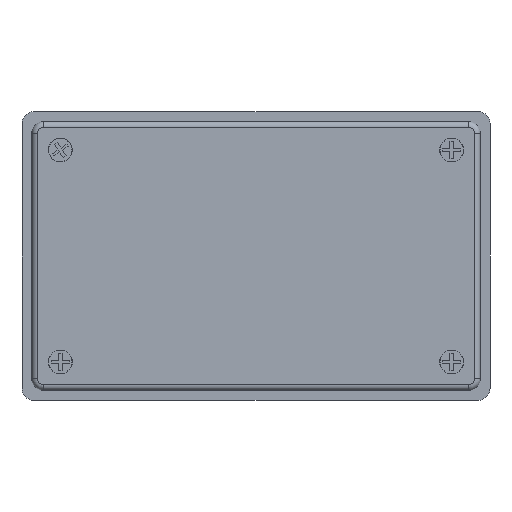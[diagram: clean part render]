
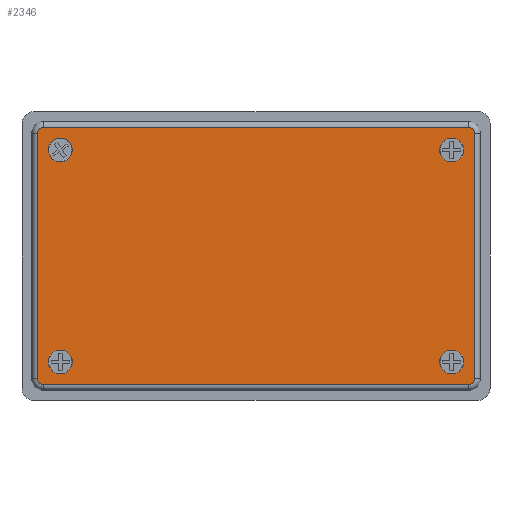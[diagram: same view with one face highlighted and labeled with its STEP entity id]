
A CAD part, front view. The second image highlights one B-rep face of the part: STEP entity #2346.
In plain terms, the highlighted planar face has unit normal (0, -1, 0).
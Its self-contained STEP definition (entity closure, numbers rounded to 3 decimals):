
#60 = DIRECTION ( 'NONE',  ( 0., 1., 0. ) ) ;
#138 = EDGE_CURVE ( 'NONE', #3438, #6290, #7312, .T. ) ;
#174 = AXIS2_PLACEMENT_3D ( 'NONE', #5218, #1301, #5840 ) ;
#193 = CARTESIAN_POINT ( 'NONE',  ( 33.25, 0., -18. ) ) ;
#205 = EDGE_CURVE ( 'NONE', #6600, #1155, #456, .T. ) ;
#212 = FACE_BOUND ( 'NONE', #317, .T. ) ;
#317 = EDGE_LOOP ( 'NONE', ( #4497, #2162 ) ) ;
#440 = AXIS2_PLACEMENT_3D ( 'NONE', #4075, #60, #4681 ) ;
#456 = CIRCLE ( 'NONE', #1502, 2. ) ;
#467 = DIRECTION ( 'NONE',  ( 0., 1., 0. ) ) ;
#475 = CIRCLE ( 'NONE', #963, 2. ) ;
#491 = CARTESIAN_POINT ( 'NONE',  ( -36.1, 0., 20.85 ) ) ;
#499 = CARTESIAN_POINT ( 'NONE',  ( 37.1, 0., 20.85 ) ) ;
#507 = ORIENTED_EDGE ( 'NONE', *, *, #5282, .T. ) ;
#545 = CARTESIAN_POINT ( 'NONE',  ( -36.1, 0., 21.85 ) ) ;
#591 = DIRECTION ( 'NONE',  ( 0., -1., 0. ) ) ;
#645 = PLANE ( 'NONE',  #3297 ) ;
#710 = EDGE_CURVE ( 'NONE', #6521, #2486, #1807, .T. ) ;
#738 = VERTEX_POINT ( 'NONE', #7745 ) ;
#777 = CARTESIAN_POINT ( 'NONE',  ( -33.25, 0., 16. ) ) ;
#858 = DIRECTION ( 'NONE',  ( 0., 0., 1. ) ) ;
#893 = CARTESIAN_POINT ( 'NONE',  ( 36.1, 0., -20.85 ) ) ;
#963 = AXIS2_PLACEMENT_3D ( 'NONE', #7678, #3998, #8285 ) ;
#973 = CARTESIAN_POINT ( 'NONE',  ( 36.1, 0., 20.85 ) ) ;
#992 = AXIS2_PLACEMENT_3D ( 'NONE', #5570, #1691, #6186 ) ;
#1022 = AXIS2_PLACEMENT_3D ( 'NONE', #193, #4801, #858 ) ;
#1155 = VERTEX_POINT ( 'NONE', #1784 ) ;
#1157 = DIRECTION ( 'NONE',  ( 0., 0., 1. ) ) ;
#1301 = DIRECTION ( 'NONE',  ( 0., 1., 0. ) ) ;
#1341 = CARTESIAN_POINT ( 'NONE',  ( 0., 0., 0. ) ) ;
#1410 = EDGE_CURVE ( 'NONE', #4139, #7762, #6127, .T. ) ;
#1421 = EDGE_CURVE ( 'NONE', #3970, #7396, #5546, .T. ) ;
#1434 = DIRECTION ( 'NONE',  ( 0., 0., 1. ) ) ;
#1458 = AXIS2_PLACEMENT_3D ( 'NONE', #3927, #8218, #4544 ) ;
#1502 = AXIS2_PLACEMENT_3D ( 'NONE', #4457, #467, #5061 ) ;
#1570 = DIRECTION ( 'NONE',  ( 0., 0., 1. ) ) ;
#1652 = DIRECTION ( 'NONE',  ( 0., 0., 1. ) ) ;
#1659 = CIRCLE ( 'NONE', #6918, 1. ) ;
#1691 = DIRECTION ( 'NONE',  ( 0., 1., 0. ) ) ;
#1784 = CARTESIAN_POINT ( 'NONE',  ( -33.25, 0., -20. ) ) ;
#1791 = CARTESIAN_POINT ( 'NONE',  ( 33.25, 0., -16. ) ) ;
#1807 = CIRCLE ( 'NONE', #2963, 1. ) ;
#1814 = CARTESIAN_POINT ( 'NONE',  ( -37.1, 0., -20.85 ) ) ;
#1980 = EDGE_CURVE ( 'NONE', #7474, #738, #2863, .T. ) ;
#1987 = FACE_BOUND ( 'NONE', #5942, .T. ) ;
#2013 = DIRECTION ( 'NONE',  ( 0., 0., 1. ) ) ;
#2017 = CARTESIAN_POINT ( 'NONE',  ( -37.1, 0., 20.85 ) ) ;
#2162 = ORIENTED_EDGE ( 'NONE', *, *, #3586, .T. ) ;
#2186 = CIRCLE ( 'NONE', #5169, 1. ) ;
#2195 = AXIS2_PLACEMENT_3D ( 'NONE', #893, #5452, #1570 ) ;
#2293 = DIRECTION ( 'NONE',  ( 0., 0., -1. ) ) ;
#2346 = ADVANCED_FACE ( 'NONE', ( #3792, #2417, #212, #6869, #1987 ), #645, .F. ) ;
#2407 = LINE ( 'NONE', #7680, #5610 ) ;
#2417 = FACE_BOUND ( 'NONE', #6497, .T. ) ;
#2439 = CARTESIAN_POINT ( 'NONE',  ( 0., 0., -21.85 ) ) ;
#2486 = VERTEX_POINT ( 'NONE', #6051 ) ;
#2550 = EDGE_CURVE ( 'NONE', #6540, #4139, #1659, .T. ) ;
#2601 = ORIENTED_EDGE ( 'NONE', *, *, #710, .T. ) ;
#2603 = DIRECTION ( 'NONE',  ( -1., 0., 0. ) ) ;
#2630 = EDGE_CURVE ( 'NONE', #5657, #6540, #2407, .T. ) ;
#2655 = ORIENTED_EDGE ( 'NONE', *, *, #2550, .T. ) ;
#2808 = CARTESIAN_POINT ( 'NONE',  ( -33.25, 0., 20. ) ) ;
#2863 = CIRCLE ( 'NONE', #992, 2. ) ;
#2963 = AXIS2_PLACEMENT_3D ( 'NONE', #4573, #591, #1434 ) ;
#2990 = CARTESIAN_POINT ( 'NONE',  ( -37.1, 0., 0. ) ) ;
#3058 = EDGE_LOOP ( 'NONE', ( #3092, #2601, #6634, #507, #7602, #2655, #4268, #3597 ) ) ;
#3092 = ORIENTED_EDGE ( 'NONE', *, *, #3278, .T. ) ;
#3276 = CARTESIAN_POINT ( 'NONE',  ( 36.1, 0., 21.85 ) ) ;
#3278 = EDGE_CURVE ( 'NONE', #7852, #6521, #3581, .T. ) ;
#3297 = AXIS2_PLACEMENT_3D ( 'NONE', #1341, #5865, #2013 ) ;
#3371 = EDGE_CURVE ( 'NONE', #2486, #7389, #4448, .T. ) ;
#3438 = VERTEX_POINT ( 'NONE', #1791 ) ;
#3581 = LINE ( 'NONE', #2990, #6667 ) ;
#3586 = EDGE_CURVE ( 'NONE', #7396, #3970, #5790, .T. ) ;
#3597 = ORIENTED_EDGE ( 'NONE', *, *, #6173, .T. ) ;
#3636 = EDGE_CURVE ( 'NONE', #1155, #6600, #8292, .T. ) ;
#3792 = FACE_OUTER_BOUND ( 'NONE', #3058, .T. ) ;
#3919 = VECTOR ( 'NONE', #2603, 1000. ) ;
#3927 = CARTESIAN_POINT ( 'NONE',  ( 33.25, 0., -18. ) ) ;
#3966 = ORIENTED_EDGE ( 'NONE', *, *, #4983, .T. ) ;
#3970 = VERTEX_POINT ( 'NONE', #777 ) ;
#3984 = CARTESIAN_POINT ( 'NONE',  ( -33.25, 0., 18. ) ) ;
#3998 = DIRECTION ( 'NONE',  ( 0., 1., 0. ) ) ;
#4075 = CARTESIAN_POINT ( 'NONE',  ( -33.25, 0., -18. ) ) ;
#4139 = VERTEX_POINT ( 'NONE', #3276 ) ;
#4268 = ORIENTED_EDGE ( 'NONE', *, *, #1410, .T. ) ;
#4448 = LINE ( 'NONE', #2439, #5898 ) ;
#4457 = CARTESIAN_POINT ( 'NONE',  ( -33.25, 0., -18. ) ) ;
#4497 = ORIENTED_EDGE ( 'NONE', *, *, #1421, .T. ) ;
#4544 = DIRECTION ( 'NONE',  ( 0., 0., 1. ) ) ;
#4573 = CARTESIAN_POINT ( 'NONE',  ( -36.1, 0., -20.85 ) ) ;
#4593 = CARTESIAN_POINT ( 'NONE',  ( 33.25, 0., -20. ) ) ;
#4599 = DIRECTION ( 'NONE',  ( 0., 0., 1. ) ) ;
#4681 = DIRECTION ( 'NONE',  ( 0., 0., 1. ) ) ;
#4755 = CIRCLE ( 'NONE', #1458, 2. ) ;
#4770 = ORIENTED_EDGE ( 'NONE', *, *, #205, .T. ) ;
#4801 = DIRECTION ( 'NONE',  ( 0., 1., 0. ) ) ;
#4983 = EDGE_CURVE ( 'NONE', #738, #7474, #475, .T. ) ;
#5061 = DIRECTION ( 'NONE',  ( 0., 0., 1. ) ) ;
#5080 = DIRECTION ( 'NONE',  ( 0., -1., 0. ) ) ;
#5169 = AXIS2_PLACEMENT_3D ( 'NONE', #491, #5080, #1157 ) ;
#5218 = CARTESIAN_POINT ( 'NONE',  ( -33.25, 0., 18. ) ) ;
#5282 = EDGE_CURVE ( 'NONE', #7389, #5657, #7023, .T. ) ;
#5452 = DIRECTION ( 'NONE',  ( 0., -1., 0. ) ) ;
#5533 = DIRECTION ( 'NONE',  ( 0., -1., 0. ) ) ;
#5545 = EDGE_CURVE ( 'NONE', #6290, #3438, #4755, .T. ) ;
#5546 = CIRCLE ( 'NONE', #5835, 2. ) ;
#5570 = CARTESIAN_POINT ( 'NONE',  ( 33.25, 0., 18. ) ) ;
#5610 = VECTOR ( 'NONE', #8287, 1000. ) ;
#5633 = DIRECTION ( 'NONE',  ( 1., 0., 0. ) ) ;
#5657 = VERTEX_POINT ( 'NONE', #7642 ) ;
#5790 = CIRCLE ( 'NONE', #174, 2. ) ;
#5835 = AXIS2_PLACEMENT_3D ( 'NONE', #3984, #8267, #4599 ) ;
#5840 = DIRECTION ( 'NONE',  ( 0., 0., 1. ) ) ;
#5865 = DIRECTION ( 'NONE',  ( 0., 1., 0. ) ) ;
#5898 = VECTOR ( 'NONE', #5633, 1000. ) ;
#5942 = EDGE_LOOP ( 'NONE', ( #3966, #7637 ) ) ;
#6023 = ORIENTED_EDGE ( 'NONE', *, *, #138, .T. ) ;
#6048 = ORIENTED_EDGE ( 'NONE', *, *, #5545, .T. ) ;
#6051 = CARTESIAN_POINT ( 'NONE',  ( -36.1, 0., -21.85 ) ) ;
#6127 = LINE ( 'NONE', #7638, #3919 ) ;
#6173 = EDGE_CURVE ( 'NONE', #7762, #7852, #2186, .T. ) ;
#6186 = DIRECTION ( 'NONE',  ( 0., 0., 1. ) ) ;
#6290 = VERTEX_POINT ( 'NONE', #4593 ) ;
#6497 = EDGE_LOOP ( 'NONE', ( #6818, #4770 ) ) ;
#6521 = VERTEX_POINT ( 'NONE', #1814 ) ;
#6540 = VERTEX_POINT ( 'NONE', #499 ) ;
#6542 = CARTESIAN_POINT ( 'NONE',  ( 36.1, 0., -21.85 ) ) ;
#6600 = VERTEX_POINT ( 'NONE', #6983 ) ;
#6625 = CARTESIAN_POINT ( 'NONE',  ( 33.25, 0., 20. ) ) ;
#6634 = ORIENTED_EDGE ( 'NONE', *, *, #3371, .T. ) ;
#6667 = VECTOR ( 'NONE', #2293, 1000. ) ;
#6818 = ORIENTED_EDGE ( 'NONE', *, *, #3636, .T. ) ;
#6869 = FACE_BOUND ( 'NONE', #7955, .T. ) ;
#6918 = AXIS2_PLACEMENT_3D ( 'NONE', #973, #5533, #1652 ) ;
#6983 = CARTESIAN_POINT ( 'NONE',  ( -33.25, 0., -16. ) ) ;
#7023 = CIRCLE ( 'NONE', #2195, 1. ) ;
#7312 = CIRCLE ( 'NONE', #1022, 2. ) ;
#7389 = VERTEX_POINT ( 'NONE', #6542 ) ;
#7396 = VERTEX_POINT ( 'NONE', #2808 ) ;
#7474 = VERTEX_POINT ( 'NONE', #6625 ) ;
#7602 = ORIENTED_EDGE ( 'NONE', *, *, #2630, .T. ) ;
#7637 = ORIENTED_EDGE ( 'NONE', *, *, #1980, .T. ) ;
#7638 = CARTESIAN_POINT ( 'NONE',  ( 0., 0., 21.85 ) ) ;
#7642 = CARTESIAN_POINT ( 'NONE',  ( 37.1, 0., -20.85 ) ) ;
#7678 = CARTESIAN_POINT ( 'NONE',  ( 33.25, 0., 18. ) ) ;
#7680 = CARTESIAN_POINT ( 'NONE',  ( 37.1, 0., 0. ) ) ;
#7745 = CARTESIAN_POINT ( 'NONE',  ( 33.25, 0., 16. ) ) ;
#7762 = VERTEX_POINT ( 'NONE', #545 ) ;
#7852 = VERTEX_POINT ( 'NONE', #2017 ) ;
#7955 = EDGE_LOOP ( 'NONE', ( #6048, #6023 ) ) ;
#8218 = DIRECTION ( 'NONE',  ( 0., 1., 0. ) ) ;
#8267 = DIRECTION ( 'NONE',  ( 0., 1., 0. ) ) ;
#8285 = DIRECTION ( 'NONE',  ( 0., 0., 1. ) ) ;
#8287 = DIRECTION ( 'NONE',  ( 0., 0., 1. ) ) ;
#8292 = CIRCLE ( 'NONE', #440, 2. ) ;
